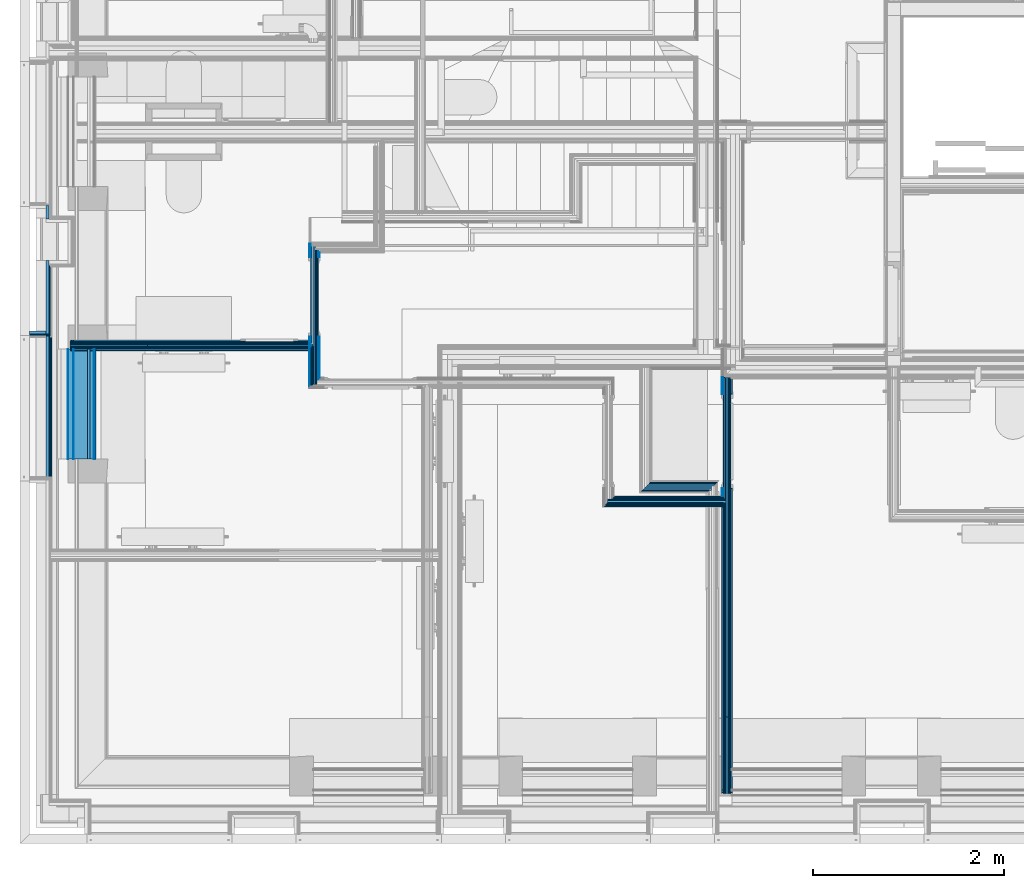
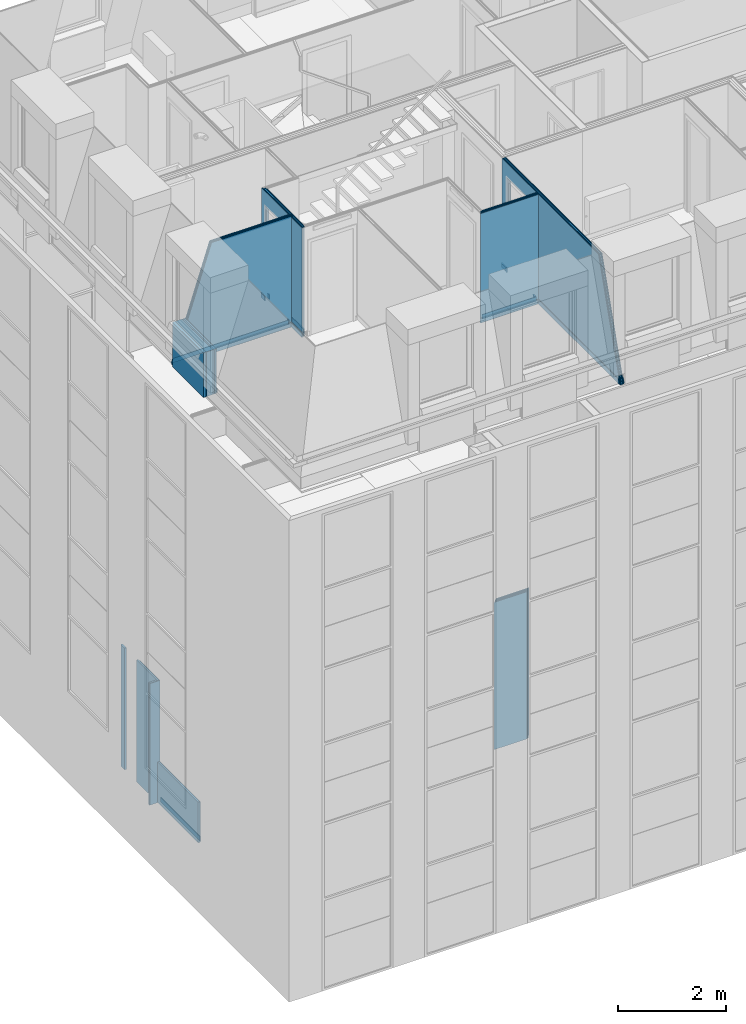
# One storey, part 16 of 169: 53 building element parts, 2 openings, 10 elements without a shape of their own.
"""IFC2X3 building model written with IfcOpenShell, lengths in metres."""

from ifc_helpers import new_model, entity, si_unit, converted_unit, derived_unit, money_unit, direction, frame, frame_2d, origin_with_axes, place, context, subcontext, project, spatial, polyline, rectangle, outline, extrude, clip, halfspace, material, type_object, element, aggregate, save


model = new_model("IFC2X3")

# Units and contexts
model_context = context("Model", 3, precision=1e-05, world=origin_with_axes(), true_north=direction((0.0, 1.0)))
body_context = subcontext(model_context, "Body", "Model", "MODEL_VIEW", scale=1.0)
ifc_project = project(units=[si_unit("LENGTHUNIT", "METRE"), si_unit("AREAUNIT", "SQUARE_METRE"), si_unit("VOLUMEUNIT", "CUBIC_METRE"), si_unit("ABSORBEDDOSEUNIT", "GRAY"), si_unit("AMOUNTOFSUBSTANCEUNIT", "MOLE"), si_unit("DOSEEQUIVALENTUNIT", "SIEVERT"), si_unit("ELECTRICCAPACITANCEUNIT", "FARAD"), si_unit("ELECTRICCHARGEUNIT", "COULOMB"), si_unit("ELECTRICCONDUCTANCEUNIT", "SIEMENS"), si_unit("ELECTRICCURRENTUNIT", "AMPERE"), si_unit("ELECTRICRESISTANCEUNIT", "OHM"), si_unit("ELECTRICVOLTAGEUNIT", "VOLT"), si_unit("ENERGYUNIT", "JOULE"), si_unit("FORCEUNIT", "NEWTON"), si_unit("FREQUENCYUNIT", "HERTZ"), si_unit("ILLUMINANCEUNIT", "LUX"), si_unit("INDUCTANCEUNIT", "HENRY"), si_unit("LUMINOUSFLUXUNIT", "LUMEN"), si_unit("LUMINOUSINTENSITYUNIT", "CANDELA"), si_unit("MAGNETICFLUXDENSITYUNIT", "TESLA"), si_unit("MAGNETICFLUXUNIT", "WEBER"), si_unit("MASSUNIT", "GRAM"), converted_unit("PLANEANGLEUNIT", "degree", entity("IfcReal", 0.0174532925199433), si_unit("PLANEANGLEUNIT", "RADIAN"), dimensions=[0, 0, 0, 0, 0, 0, 0]), si_unit("POWERUNIT", "WATT"), si_unit("PRESSUREUNIT", "PASCAL"), si_unit("RADIOACTIVITYUNIT", "BECQUEREL"), si_unit("SOLIDANGLEUNIT", "STERADIAN"), si_unit("THERMODYNAMICTEMPERATUREUNIT", "KELVIN"), si_unit("TIMEUNIT", "SECOND"), derived_unit("ACCELERATIONUNIT", [(si_unit("LENGTHUNIT", "METRE"), 1), (si_unit("TIMEUNIT", "SECOND"), -2)]), derived_unit("ANGULARVELOCITYUNIT", [(converted_unit("PLANEANGLEUNIT", "degree", entity("IfcReal", 0.0174532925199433), si_unit("PLANEANGLEUNIT", "RADIAN"), dimensions=[0, 0, 0, 0, 0, 0, 0]), 1), (si_unit("TIMEUNIT", "SECOND"), -1)]), derived_unit("CURVATUREUNIT", [(converted_unit("PLANEANGLEUNIT", "degree", entity("IfcReal", 0.0174532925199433), si_unit("PLANEANGLEUNIT", "RADIAN"), dimensions=[0, 0, 0, 0, 0, 0, 0]), 1), (si_unit("LENGTHUNIT", "METRE"), -1)]), derived_unit("DYNAMICVISCOSITYUNIT", [(si_unit("PRESSUREUNIT", "PASCAL"), 1), (si_unit("TIMEUNIT", "SECOND"), 1)]), derived_unit("HEATFLUXDENSITYUNIT", [(si_unit("POWERUNIT", "WATT"), 1), (si_unit("LENGTHUNIT", "METRE"), -2)]), derived_unit("HEATINGVALUEUNIT", [(si_unit("ENERGYUNIT", "JOULE"), 1), (si_unit("MASSUNIT", "GRAM"), -1)]), derived_unit("INTEGERCOUNTRATEUNIT", [(si_unit("TIMEUNIT", "SECOND"), -1)]), derived_unit("IONCONCENTRATIONUNIT", [(si_unit("MASSUNIT", "GRAM"), 1), (si_unit("VOLUMEUNIT", "CUBIC_METRE"), -1)]), derived_unit("ISOTHERMALMOISTURECAPACITYUNIT", [(si_unit("VOLUMEUNIT", "CUBIC_METRE"), 1), (si_unit("MASSUNIT", "GRAM"), -1)]), derived_unit("KINEMATICVISCOSITYUNIT", [(si_unit("AREAUNIT", "SQUARE_METRE"), 1), (si_unit("TIMEUNIT", "SECOND"), -1)]), derived_unit("LINEARFORCEUNIT", [(si_unit("FORCEUNIT", "NEWTON"), 1), (si_unit("LENGTHUNIT", "METRE"), -1)]), derived_unit("LINEARMOMENTUNIT", [(si_unit("FORCEUNIT", "NEWTON"), 1), (si_unit("LENGTHUNIT", "METRE"), -1)]), derived_unit("LINEARSTIFFNESSUNIT", [(si_unit("FORCEUNIT", "NEWTON"), 1), (si_unit("LENGTHUNIT", "METRE"), -1)]), derived_unit("LINEARVELOCITYUNIT", [(si_unit("LENGTHUNIT", "METRE"), 1), (si_unit("TIMEUNIT", "SECOND"), -1)]), derived_unit("LUMINOUSINTENSITYDISTRIBUTIONUNIT", [(si_unit("LUMINOUSINTENSITYUNIT", "CANDELA"), 1), (si_unit("LUMINOUSFLUXUNIT", "LUMEN"), -1)]), derived_unit("MASSDENSITYUNIT", [(si_unit("MASSUNIT", "GRAM"), 1), (si_unit("VOLUMEUNIT", "CUBIC_METRE"), -1)]), derived_unit("MASSFLOWRATEUNIT", [(si_unit("MASSUNIT", "GRAM"), 1), (si_unit("TIMEUNIT", "SECOND"), -1)]), derived_unit("MASSPERLENGTHUNIT", [(si_unit("MASSUNIT", "GRAM"), 1), (si_unit("LENGTHUNIT", "METRE"), -1)]), derived_unit("MODULUSOFELASTICITYUNIT", [(si_unit("FORCEUNIT", "NEWTON"), 1), (si_unit("AREAUNIT", "SQUARE_METRE"), -1)]), derived_unit("MODULUSOFLINEARSUBGRADEREACTIONUNIT", [(si_unit("FORCEUNIT", "NEWTON"), 1), (si_unit("LENGTHUNIT", "METRE"), -2)]), derived_unit("MODULUSOFROTATIONALSUBGRADEREACTIONUNIT", [(si_unit("FORCEUNIT", "NEWTON"), 1), (si_unit("LENGTHUNIT", "METRE"), 1)]), derived_unit("MODULUSOFSUBGRADEREACTIONUNIT", [(si_unit("FORCEUNIT", "NEWTON"), 1), (si_unit("VOLUMEUNIT", "CUBIC_METRE"), -1)]), derived_unit("MOISTUREDIFFUSIVITYUNIT", [(si_unit("VOLUMEUNIT", "CUBIC_METRE"), 1), (si_unit("TIMEUNIT", "SECOND"), -1)]), derived_unit("MOLECULARWEIGHTUNIT", [(si_unit("MASSUNIT", "GRAM"), 1), (si_unit("AMOUNTOFSUBSTANCEUNIT", "MOLE"), -1)]), derived_unit("PLANARFORCEUNIT", [(si_unit("FORCEUNIT", "NEWTON"), 1), (si_unit("LENGTHUNIT", "METRE"), -2)]), derived_unit("ROTATIONALFREQUENCYUNIT", [(si_unit("TIMEUNIT", "SECOND"), -1)]), derived_unit("ROTATIONALMASSUNIT", [(si_unit("MASSUNIT", "GRAM"), 1), (si_unit("LENGTHUNIT", "METRE"), 2)]), derived_unit("ROTATIONALSTIFFNESSUNIT", [(si_unit("FORCEUNIT", "NEWTON"), 1), (si_unit("LENGTHUNIT", "METRE"), 1), (converted_unit("PLANEANGLEUNIT", "degree", entity("IfcReal", 0.0174532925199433), si_unit("PLANEANGLEUNIT", "RADIAN"), dimensions=[0, 0, 0, 0, 0, 0, 0]), -1)]), derived_unit("SECTIONAREAINTEGRALUNIT", [(si_unit("LENGTHUNIT", "METRE"), 5)]), derived_unit("SECTIONMODULUSUNIT", [(si_unit("LENGTHUNIT", "METRE"), 3)]), derived_unit("SHEARMODULUSUNIT", [(si_unit("FORCEUNIT", "NEWTON"), 1), (si_unit("AREAUNIT", "SQUARE_METRE"), -1)]), derived_unit("SOUNDPOWERUNIT", [(si_unit("ENERGYUNIT", "JOULE"), 1), (si_unit("TIMEUNIT", "SECOND"), -1)]), derived_unit("SPECIFICHEATCAPACITYUNIT", [(si_unit("FORCEUNIT", "NEWTON"), 1), (si_unit("MASSUNIT", "GRAM"), -1), (si_unit("THERMODYNAMICTEMPERATUREUNIT", "KELVIN"), -1)]), derived_unit("TEMPERATUREGRADIENTUNIT", [(si_unit("THERMODYNAMICTEMPERATUREUNIT", "KELVIN"), 1), (si_unit("LENGTHUNIT", "METRE"), -1)]), derived_unit("THERMALADMITTANCEUNIT", [(si_unit("POWERUNIT", "WATT"), 1), (si_unit("AREAUNIT", "SQUARE_METRE"), -1), (si_unit("THERMODYNAMICTEMPERATUREUNIT", "KELVIN"), -1)]), derived_unit("THERMALCONDUCTANCEUNIT", [(si_unit("POWERUNIT", "WATT"), 1), (si_unit("LENGTHUNIT", "METRE"), -1), (si_unit("THERMODYNAMICTEMPERATUREUNIT", "KELVIN"), -1)]), derived_unit("THERMALEXPANSIONCOEFFICIENTUNIT", [(si_unit("THERMODYNAMICTEMPERATUREUNIT", "KELVIN"), -1)]), derived_unit("THERMALRESISTANCEUNIT", [(si_unit("AREAUNIT", "SQUARE_METRE"), 1), (si_unit("POWERUNIT", "WATT"), -1)]), derived_unit("THERMALTRANSMITTANCEUNIT", [(si_unit("POWERUNIT", "WATT"), 1), (si_unit("AREAUNIT", "SQUARE_METRE"), -1), (si_unit("THERMODYNAMICTEMPERATUREUNIT", "KELVIN"), -1)]), derived_unit("TORQUEUNIT", [(si_unit("FORCEUNIT", "NEWTON"), 1), (si_unit("LENGTHUNIT", "METRE"), 1)]), derived_unit("VAPORPERMEABILITYUNIT", [(si_unit("MASSUNIT", "GRAM"), 1), (si_unit("TIMEUNIT", "SECOND"), -1)]), derived_unit("VOLUMETRICFLOWRATEUNIT", [(si_unit("VOLUMEUNIT", "CUBIC_METRE"), 1), (si_unit("TIMEUNIT", "SECOND"), -1)]), derived_unit("WARPINGCONSTANTUNIT", [(si_unit("LENGTHUNIT", "METRE"), 6)]), derived_unit("WARPINGMOMENTUNIT", [(si_unit("FORCEUNIT", "NEWTON"), 1), (si_unit("LENGTHUNIT", "METRE"), 2)]), money_unit("GBP")], contexts=[model_context])

# Site, building, storey
site_placement = place(None, origin_with_axes())
site = spatial("IfcSite", under=ifc_project, at=site_placement, Name="Site", CompositionType="ELEMENT")
building_placement = place(site_placement, origin_with_axes())
building = spatial("IfcBuilding", under=site, at=building_placement, Name="Building01", CompositionType="ELEMENT")
storey_placement = place(building_placement, frame((0.0, 0.0, 5.15), z_axis=(0.0, 0.0, 1.0), x_axis=(1.0, 0.0, 0.0)))
storey = spatial("IfcBuildingStorey", under=building, at=storey_placement, Name="1F", CompositionType="ELEMENT", Elevation=5.15)

# Wall, building element parts
wall_type_1 = type_object("IfcWallType", Name="SHE_A-Walls_Type05a_Partition_95mm_tall", PredefinedType="NOTDEFINED")
wall_1_placement = place(storey_placement, frame((7.235, 3.72, 0.0), z_axis=(0.0, 0.0, 1.0), x_axis=(-1.0, 0.0, 0.0)))
wall_1 = element("IfcWall", 1, at=wall_1_placement, inside=storey, type_object=wall_type_1, Name="5A", ObjectType="SHE_A-Walls_Type05a_Partition_95mm_tall")
ifc_material_1 = material(Name="A_BSUK_WallInternal_Finishes_Plasterboard")
placement_1 = place(wall_1_placement, origin_with_axes())
building_element_part_1 = element("IfcBuildingElementPart", 2, at=placement_1, material=ifc_material_1, Name="2", context=body_context, shape_type="SweptSolid", body=[
    extrude(outline(polyline([(0.652, -0.048), (-0.048, -0.048), (-0.06, -0.06), (0.64, -0.06), (0.652, -0.048)])), origin_with_axes(), (0.0, 0.0, 1.0), 3.32),
])
ifc_material_2 = material(Name="Air Cavity")
building_element_part_2 = element("IfcBuildingElementPart", 3, at=placement_1, material=ifc_material_2, Name="3", context=body_context, shape_type="SweptSolid", body=[
    extrude(outline(polyline([(0.675, -0.025), (-0.025, -0.025), (-0.048, -0.048), (0.652, -0.048), (0.675, -0.025)])), origin_with_axes(), (0.0, 0.0, 1.0), 3.32),
])
ifc_material_3 = material(Name="A_BSUK_Insulation")
building_element_part_3 = element("IfcBuildingElementPart", 4, at=placement_1, material=ifc_material_3, Name="4", context=body_context, shape_type="SweptSolid", body=[
    extrude(outline(polyline([(0.7, 0.0), (0.0, 0.0), (0.0, -0.025), (0.675, -0.025), (0.7, 0.0)])), origin_with_axes(), (0.0, 0.0, 1.0), 3.32),
])
building_element_part_4 = element("IfcBuildingElementPart", 5, at=placement_1, material=ifc_material_2, Name="5", context=body_context, shape_type="SweptSolid", body=[
    extrude(outline(polyline([(0.723, 0.023), (0.0, 0.023), (0.0, 0.0), (0.7, 0.0), (0.723, 0.023)])), origin_with_axes(), (0.0, 0.0, 1.0), 3.32),
])
building_element_part_5 = element("IfcBuildingElementPart", 6, at=placement_1, material=ifc_material_1, Name="6", context=body_context, shape_type="SweptSolid", body=[
    extrude(outline(polyline([(0.735, 0.035), (0.035, 0.035), (0.023, 0.023), (0.723, 0.023), (0.735, 0.035)])), origin_with_axes(), (0.0, 0.0, 1.0), 3.32),
])
aggregate(wall_1, [building_element_part_1, building_element_part_2, building_element_part_3, building_element_part_4, building_element_part_5])

# Wall, building element part
wall_type_2 = type_object("IfcWallType", Name="SHE_A-Walls_Type06d_ExternalWallInsulation_48mm", PredefinedType="NOTDEFINED")
wall_2_placement = place(storey_placement, frame((0.27, 6.68018, 0.0), z_axis=(0.0, 0.0, 1.0), x_axis=(0.0, -1.0, 0.0)))
wall_2 = element("IfcWall", 7, at=wall_2_placement, inside=storey, type_object=wall_type_2, Name="6D", ObjectType="SHE_A-Walls_Type06d_ExternalWallInsulation_48mm")
building_element_part_6_placement = place(wall_2_placement, origin_with_axes())
building_element_part_6 = element("IfcBuildingElementPart", 8, at=building_element_part_6_placement, material=ifc_material_3, Name="1", context=body_context, shape_type="SweptSolid", body=[
    extrude(rectangle(XDim=0.14418, YDim=0.036, at=frame_2d((0.07209, 0.018), x_axis=(-1.0, 0.0))), origin_with_axes(), (0.0, 0.0, 1.0), 2.74),
])
aggregate(wall_2, [building_element_part_6])

# Wall, building element parts
wall_3_placement = place(storey_placement, frame((0.27, 6.1, 0.0), z_axis=(0.0, 0.0, 1.0), x_axis=(0.0, -1.0, 0.0)))
wall_3 = element("IfcWall", 9, at=wall_3_placement, inside=storey, type_object=wall_type_2, Name="6D", ObjectType="SHE_A-Walls_Type06d_ExternalWallInsulation_48mm")
placement_2 = place(wall_3_placement, origin_with_axes())
building_element_part_7 = element("IfcBuildingElementPart", 10, at=placement_2, material=ifc_material_3, Name="1", context=body_context, shape_type="SweptSolid", body=[
    extrude(rectangle(XDim=0.773, YDim=0.036, at=frame_2d((0.3865, 0.018), x_axis=(-1.0, 0.0))), origin_with_axes(), (0.0, 0.0, 1.0), 2.74),
])
building_element_part_8 = element("IfcBuildingElementPart", 11, at=placement_2, material=ifc_material_1, Name="2", context=body_context, shape_type="SweptSolid", body=[
    extrude(outline(polyline([(0.785, 0.048), (0.048, 0.048), (0.048, 0.035), (0.772, 0.035), (0.785, 0.048)])), origin_with_axes(), (0.0, 0.0, 1.0), 2.74),
])
aggregate(wall_3, [building_element_part_7, building_element_part_8])

wall_4_placement = place(storey_placement, frame((0.27, 5.363, 0.0), z_axis=(0.0, 0.0, 1.0), x_axis=(-1.0, 0.0, 0.0)))
wall_4 = element("IfcWall", 12, at=wall_4_placement, inside=storey, type_object=wall_type_2, Name="6D", ObjectType="SHE_A-Walls_Type06d_ExternalWallInsulation_48mm")
placement_3 = place(wall_4_placement, origin_with_axes())
building_element_part_9 = element("IfcBuildingElementPart", 13, at=placement_3, material=ifc_material_3, Name="1", context=body_context, shape_type="SweptSolid", body=[
    extrude(rectangle(XDim=0.036, YDim=0.17, at=frame_2d((0.085, 0.018), x_axis=(0.0, -1.0))), origin_with_axes(), (0.0, 0.0, 1.0), 2.74),
])
building_element_part_10 = element("IfcBuildingElementPart", 14, at=placement_3, material=ifc_material_1, Name="2", context=body_context, shape_type="SweptSolid", body=[
    extrude(outline(polyline([(-0.048, 0.048), (-0.035, 0.035), (0.17, 0.035), (0.17, 0.048), (-0.048, 0.048)])), origin_with_axes(), (0.0, 0.0, 1.0), 2.74),
])
aggregate(wall_4, [building_element_part_9, building_element_part_10])

wall_5_placement = place(storey_placement, frame((0.306, 5.315, 0.0), z_axis=(0.0, 0.0, 1.0), x_axis=(0.0, -1.0, 0.0)))
wall_5 = element("IfcWall", 15, at=wall_5_placement, inside=storey, type_object=wall_type_2, Name="6D", ObjectType="SHE_A-Walls_Type06d_ExternalWallInsulation_48mm")
placement_4 = place(wall_5_placement, origin_with_axes())
building_element_part_11 = element("IfcBuildingElementPart", 16, at=placement_4, material=ifc_material_3, Name="1", context=body_context, shape_type="SweptSolid", body=[
    extrude(rectangle(XDim=1.49282, YDim=0.036, at=frame_2d((0.74641, -0.018), x_axis=(-1.0, 0.0))), origin_with_axes(), (0.0, 0.0, 1.0), 0.915),
])
building_element_part_12 = element("IfcBuildingElementPart", 17, at=placement_4, material=ifc_material_1, Name="2", context=body_context, shape_type="SweptSolid", body=[
    extrude(rectangle(XDim=1.49282, YDim=0.013, at=frame_2d((0.74641, 0.0055), x_axis=(-1.0, 0.0))), origin_with_axes(), (0.0, 0.0, 1.0), 0.915),
])
ifc_material_4 = material(Name="A_BSUK_Walls_Timber")
building_element_part_13 = element("IfcBuildingElementPart", 18, at=placement_4, material=ifc_material_4, Name="3", context=body_context, shape_type="SweptSolid", body=[
    extrude(rectangle(XDim=1.46282, YDim=0.015, at=frame_2d((0.74641, 0.0195), x_axis=(-1.0, 0.0))), frame((0.0, 0.0, 0.015), z_axis=(0.0, 0.0, 1.0), x_axis=(1.0, 0.0, 0.0)), (0.0, 0.0, 1.0), 0.1),
])
aggregate(wall_5, [building_element_part_11, building_element_part_12, building_element_part_13])

# Wall, opening, building element parts
wall_type_3 = type_object("IfcWallType", Name="SHE_A-Walls_Type05b_Partition_80mm", PredefinedType="NOTDEFINED")
wall_6_placement = place(storey_placement, frame((3.066976, 6.252939, 9.83), z_axis=(0.0, 0.0, 1.0), x_axis=(0.0, -1.0, 0.0)))
wall_6 = element("IfcWall", 19, at=wall_6_placement, inside=storey, type_object=wall_type_3, Name="5B", ObjectType="SHE_A-Walls_Type05b_Partition_80mm")
opening_1_placement = place(wall_6_placement, frame((0.115964, 0.068, 0.0), z_axis=(0.0, 0.0, 1.0), x_axis=(1.0, 0.0, 0.0)))
element("IfcOpeningElement", 20, at=opening_1_placement, cuts=wall_6, Name="Opening", ObjectType="Opening", context=body_context, shape_type="SweptSolid", body=[
    extrude(rectangle(XDim=0.834, YDim=2.142, at=frame_2d((0.417, 1.071), x_axis=(-1.0, 0.0))), frame((0.0, 0.0, 0.0), z_axis=(0.0, -1.0, 0.0), x_axis=(1.0, 0.0, 0.0)), (0.0, 0.0, 1.0), 0.11),
])
placement_5 = place(wall_6_placement, origin_with_axes())
building_element_part_14 = element("IfcBuildingElementPart", 21, at=placement_5, material=ifc_material_4, Name="1", context=body_context, shape_type="SweptSolid", body=[
    extrude(rectangle(XDim=1.024964, YDim=0.015, at=frame_2d((0.485482, -0.0345), x_axis=(-1.0, 0.0))), frame((0.0, 0.0, 0.015), z_axis=(0.0, 0.0, 1.0), x_axis=(1.0, 0.0, 0.0)), (0.0, 0.0, 1.0), 0.1),
])
building_element_part_15 = element("IfcBuildingElementPart", 22, at=placement_5, material=ifc_material_4, Name="2", context=body_context, shape_type="SweptSolid", body=[
    extrude(outline(polyline([(1.473, -0.027), (-0.027, -0.027), (-0.027, -0.042), (1.488, -0.042), (1.473, -0.027)])), frame((0.0, 0.0, 0.015), z_axis=(0.0, 0.0, 1.0), x_axis=(1.0, 0.0, 0.0)), (0.0, 0.0, 1.0), 0.1),
])
building_element_part_16 = element("IfcBuildingElementPart", 23, at=placement_5, material=ifc_material_1, Name="3", context=body_context, shape_type="SweptSolid", body=[
    extrude(rectangle(XDim=1.039964, YDim=0.015, at=frame_2d((0.492982, -0.0195), x_axis=(-1.0, 0.0))), origin_with_axes(), (0.0, 0.0, 1.0), 2.468),
])
building_element_part_17 = element("IfcBuildingElementPart", 24, at=placement_5, material=ifc_material_1, Name="4", context=body_context, shape_type="SweptSolid", body=[
    extrude(outline(polyline([(1.458, -0.012), (1.062964, -0.012), (1.062964, -0.027), (1.473, -0.027), (1.458, -0.012)])), origin_with_axes(), (0.0, 0.0, 1.0), 2.468),
])
building_element_part_18 = element("IfcBuildingElementPart", 25, at=placement_5, material=ifc_material_2, Name="5", context=body_context, shape_type="SweptSolid", body=[
    extrude(outline(polyline([(1.446, 0.0), (1.062964, 0.0), (1.062964, -0.012), (1.458, -0.012), (1.446, 0.0)])), origin_with_axes(), (0.0, 0.0, 1.0), 2.468),
])
building_element_part_19 = element("IfcBuildingElementPart", 26, at=placement_5, material=ifc_material_3, Name="6", context=body_context, shape_type="SweptSolid", body=[
    extrude(rectangle(XDim=1.446, YDim=0.025, at=frame_2d((0.723, 0.0125), x_axis=(-1.0, 0.0))), origin_with_axes(), (0.0, 0.0, 1.0), 2.468),
])
building_element_part_20 = element("IfcBuildingElementPart", 27, at=placement_5, material=ifc_material_2, Name="7", context=body_context, shape_type="SweptSolid", body=[
    extrude(rectangle(XDim=1.446, YDim=0.013, at=frame_2d((0.723, 0.0315), x_axis=(-1.0, 0.0))), origin_with_axes(), (0.0, 0.0, 1.0), 2.468),
])
building_element_part_21 = element("IfcBuildingElementPart", 28, at=placement_5, material=ifc_material_1, Name="8", context=body_context, shape_type="SweptSolid", body=[
    extrude(outline(polyline([(1.393, 0.053), (0.038, 0.053), (0.038, 0.038), (1.408, 0.038), (1.393, 0.053)])), origin_with_axes(), (0.0, 0.0, 1.0), 2.468),
])
building_element_part_22 = element("IfcBuildingElementPart", 29, at=placement_5, material=ifc_material_4, Name="9", context=body_context, shape_type="SweptSolid", body=[
    extrude(outline(polyline([(1.378, 0.068), (0.068, 0.068), (0.053, 0.053), (1.393, 0.053), (1.378, 0.068)])), frame((0.0, 0.0, 0.015), z_axis=(0.0, 0.0, 1.0), x_axis=(1.0, 0.0, 0.0)), (0.0, 0.0, 1.0), 0.1),
])
aggregate(wall_6, [building_element_part_14, building_element_part_15, building_element_part_16, building_element_part_17, building_element_part_18, building_element_part_19, building_element_part_20, building_element_part_21, building_element_part_22])

# Wall, building element parts
wall_type_4 = type_object("IfcWallType", Name="SHE_A-Walls_Type06e_ExternalWallPenthouse_280mm", PredefinedType="NOTDEFINED")
wall_7_placement = place(storey_placement, frame((0.564939, 5.174915, 9.83), z_axis=(0.0, 0.0, 1.0), x_axis=(0.0, 1.0, 0.0)))
wall_7 = element("IfcWall", 30, at=wall_7_placement, inside=storey, type_object=wall_type_4, Name="6E", ObjectType="SHE_A-Walls_Type06e_ExternalWallPenthouse_280mm")
placement_6 = place(wall_7_placement, origin_with_axes())
building_element_part_23 = element("IfcBuildingElementPart", 31, at=placement_6, material=ifc_material_4, Name="1", context=body_context, shape_type="SweptSolid", body=[
    extrude(rectangle(XDim=1.149951, YDim=0.015, at=frame_2d((-0.574976, -0.2225), x_axis=(1.0, 0.0))), frame((0.0, 0.0, 0.015), z_axis=(0.0, 0.0, 1.0), x_axis=(1.0, 0.0, 0.0)), (0.0, 0.0, 1.0), 0.1),
])
building_element_part_24 = element("IfcBuildingElementPart", 32, at=placement_6, material=ifc_material_1, Name="2", context=body_context, shape_type="SweptSolid", body=[
    extrude(rectangle(XDim=1.149951, YDim=0.01, at=frame_2d((-0.574976, -0.21), x_axis=(1.0, 0.0))), origin_with_axes(), (0.0, 0.0, 1.0), 1.0),
])
building_element_part_25 = element("IfcBuildingElementPart", 33, at=placement_6, material=ifc_material_3, Name="3", context=body_context, shape_type="SweptSolid", body=[
    extrude(rectangle(XDim=1.149951, YDim=0.04, at=frame_2d((-0.574976, -0.185), x_axis=(1.0, 0.0))), origin_with_axes(), (0.0, 0.0, 1.0), 1.0),
])
building_element_part_26 = element("IfcBuildingElementPart", 34, at=placement_6, material=ifc_material_2, Name="4", context=body_context, shape_type="SweptSolid", body=[
    extrude(rectangle(XDim=1.149951, YDim=0.025, at=frame_2d((-0.574976, -0.1525), x_axis=(1.0, 0.0))), origin_with_axes(), (0.0, 0.0, 1.0), 1.0),
])
building_element_part_27 = element("IfcBuildingElementPart", 35, at=placement_6, material=ifc_material_3, Name="5", context=body_context, shape_type="SweptSolid", body=[
    extrude(rectangle(XDim=1.149951, YDim=0.14, at=frame_2d((-0.574976, -0.07), x_axis=(1.0, 0.0))), origin_with_axes(), (0.0, 0.0, 1.0), 1.0),
])
building_element_part_28 = element("IfcBuildingElementPart", 36, at=placement_6, material=ifc_material_4, Name="6", context=body_context, shape_type="SweptSolid", body=[
    extrude(rectangle(XDim=1.149951, YDim=0.01, at=frame_2d((-0.574976, 0.005), x_axis=(1.0, 0.0))), origin_with_axes(), (0.0, 0.0, 1.0), 1.0),
])
building_element_part_29 = element("IfcBuildingElementPart", 37, at=placement_6, material=ifc_material_2, Name="7", context=body_context, shape_type="SweptSolid", body=[
    extrude(rectangle(XDim=1.149951, YDim=0.05, at=frame_2d((-0.574976, 0.035), x_axis=(1.0, 0.0))), origin_with_axes(), (0.0, 0.0, 1.0), 1.0),
])
ifc_material_5 = material(Name="A_BSUK_WallInternal_Finishes_Metal")
building_element_part_30 = element("IfcBuildingElementPart", 38, at=placement_6, material=ifc_material_5, Name="8", context=body_context, shape_type="SweptSolid", body=[
    extrude(rectangle(XDim=1.149951, YDim=0.005, at=frame_2d((-0.574976, 0.0625), x_axis=(1.0, 0.0))), origin_with_axes(), (0.0, 0.0, 1.0), 1.0),
])
aggregate(wall_7, [building_element_part_23, building_element_part_24, building_element_part_25, building_element_part_26, building_element_part_27, building_element_part_28, building_element_part_29, building_element_part_30])

# Wall, opening, building element parts
wall_8_placement = place(storey_placement, frame((7.387, 4.88, 9.83), z_axis=(0.0, 0.0, 1.0), x_axis=(0.0, -1.0, 0.0)))
wall_8 = element("IfcWall", 39, at=wall_8_placement, inside=storey, type_object=wall_type_3, Name="5B", ObjectType="SHE_A-Walls_Type05b_Partition_80mm")
opening_2_placement = place(wall_8_placement, frame((0.178061, -0.042, 0.0), z_axis=(0.0, 0.0, 1.0), x_axis=(1.0, 0.0, 0.0)))
element("IfcOpeningElement", 40, at=opening_2_placement, cuts=wall_8, Name="Opening", ObjectType="Opening", context=body_context, shape_type="SweptSolid", body=[
    extrude(rectangle(XDim=0.984, YDim=2.142, at=frame_2d((-0.492, 1.071), x_axis=(-1.0, 0.0))), frame((0.0, 0.0, 0.0), z_axis=(0.0, 1.0, 0.0), x_axis=(-1.0, 0.0, 0.0)), (0.0, 0.0, 1.0), 0.11),
])
placement_7 = place(wall_8_placement, origin_with_axes())
building_element_part_31 = element("IfcBuildingElementPart", 41, at=placement_7, material=ifc_material_4, Name="1", context=body_context, shape_type="SweptSolid", body=[
    extrude(rectangle(XDim=1.245061, YDim=0.015, at=frame_2d((0.62253, -0.0345), x_axis=(-1.0, 0.0))), frame((0.0, 0.0, 0.015), z_axis=(0.0, 0.0, 1.0), x_axis=(1.0, 0.0, 0.0)), (0.0, 0.0, 1.0), 0.1),
])
building_element_part_32 = element("IfcBuildingElementPart", 42, at=placement_7, material=ifc_material_4, Name="2", context=body_context, shape_type="Clipping", body=[
    clip(extrude(rectangle(XDim=4.35127, YDim=0.015, at=frame_2d((2.175635, -0.0345), x_axis=(-1.0, 0.0))), frame((0.0, 0.0, 0.015), z_axis=(0.0, 0.0, 1.0), x_axis=(1.0, 0.0, 0.0)), (0.0, 0.0, 1.0), 0.1), halfspace(frame((3.940169, 0.0, 1.280238), z_axis=(-0.95105652, 0.0, -0.30901699), x_axis=(0.0, -1.0, 0.0)), True)),
])
building_element_part_33 = element("IfcBuildingElementPart", 43, at=placement_7, material=ifc_material_1, Name="3", context=body_context, shape_type="SweptSolid", body=[
    extrude(rectangle(XDim=1.275061, YDim=0.015, at=frame_2d((0.63753, -0.0195), x_axis=(-1.0, 0.0))), origin_with_axes(), (0.0, 0.0, 1.0), 2.468),
])
building_element_part_34 = element("IfcBuildingElementPart", 44, at=placement_7, material=ifc_material_1, Name="4", context=body_context, shape_type="Clipping", body=[
    clip(extrude(rectangle(XDim=4.356143, YDim=0.015, at=frame_2d((2.178072, -0.0195), x_axis=(-1.0, 0.0))), origin_with_axes(), (0.0, 0.0, 1.0), 2.468), halfspace(frame((3.940169, 0.0, 1.280238), z_axis=(-0.95105652, 0.0, -0.30901699), x_axis=(0.0, -1.0, 0.0)), True)),
])
building_element_part_35 = element("IfcBuildingElementPart", 45, at=placement_7, material=ifc_material_2, Name="5", context=body_context, shape_type="Clipping", body=[
    clip(extrude(rectangle(XDim=4.356143, YDim=0.012, at=frame_2d((2.178072, -0.006), x_axis=(-1.0, 0.0))), origin_with_axes(), (0.0, 0.0, 1.0), 2.468), halfspace(frame((3.940169, 0.0, 1.280238), z_axis=(-0.95105652, 0.0, -0.30901699), x_axis=(0.0, -1.0, 0.0)), True)),
])
building_element_part_36 = element("IfcBuildingElementPart", 46, at=placement_7, material=ifc_material_3, Name="6", context=body_context, shape_type="Clipping", body=[
    clip(extrude(rectangle(XDim=4.356143, YDim=0.025, at=frame_2d((2.178072, 0.0125), x_axis=(-1.0, 0.0))), origin_with_axes(), (0.0, 0.0, 1.0), 2.468), halfspace(frame((3.940169, 0.0, 1.280238), z_axis=(-0.95105652, 0.0, -0.30901699), x_axis=(0.0, -1.0, 0.0)), True)),
])
building_element_part_37 = element("IfcBuildingElementPart", 47, at=placement_7, material=ifc_material_2, Name="7", context=body_context, shape_type="Clipping", body=[
    clip(extrude(rectangle(XDim=4.356143, YDim=0.013, at=frame_2d((2.178072, 0.0315), x_axis=(-1.0, 0.0))), origin_with_axes(), (0.0, 0.0, 1.0), 2.468), halfspace(frame((3.940169, 0.0, 1.280238), z_axis=(-0.95105652, 0.0, -0.30901699), x_axis=(0.0, -1.0, 0.0)), True)),
])
building_element_part_38 = element("IfcBuildingElementPart", 48, at=placement_7, material=ifc_material_1, Name="8", context=body_context, shape_type="Clipping", body=[
    clip(extrude(rectangle(XDim=4.356143, YDim=0.015, at=frame_2d((2.178072, 0.0455), x_axis=(-1.0, 0.0))), origin_with_axes(), (0.0, 0.0, 1.0), 2.468), halfspace(frame((3.940169, 0.0, 1.280238), z_axis=(-0.95105652, 0.0, -0.30901699), x_axis=(0.0, -1.0, 0.0)), True)),
])
building_element_part_39 = element("IfcBuildingElementPart", 49, at=placement_7, material=ifc_material_4, Name="9", context=body_context, shape_type="Clipping", body=[
    clip(extrude(rectangle(XDim=4.33627, YDim=0.015, at=frame_2d((2.183135, 0.0605), x_axis=(-1.0, 0.0))), frame((0.0, 0.0, 0.015), z_axis=(0.0, 0.0, 1.0), x_axis=(1.0, 0.0, 0.0)), (0.0, 0.0, 1.0), 0.1), halfspace(frame((3.940169, 0.0, 1.280238), z_axis=(-0.95105652, 0.0, -0.30901699), x_axis=(0.0, -1.0, 0.0)), True)),
])
aggregate(wall_8, [building_element_part_31, building_element_part_32, building_element_part_33, building_element_part_34, building_element_part_35, building_element_part_36, building_element_part_37, building_element_part_38, building_element_part_39])

# Wall, building element parts
wall_9_placement = place(storey_placement, frame((3.066976, 5.227976, 9.83), z_axis=(0.0, 0.0, 1.0), x_axis=(-1.0, 0.0, 0.0)))
wall_9 = element("IfcWall", 50, at=wall_9_placement, inside=storey, type_object=wall_type_3, Name="5B", ObjectType="SHE_A-Walls_Type05b_Partition_80mm")
placement_8 = place(wall_9_placement, origin_with_axes())
building_element_part_40 = element("IfcBuildingElementPart", 51, at=placement_8, material=ifc_material_4, Name="1", context=body_context, shape_type="Clipping", body=[
    clip(extrude(rectangle(XDim=2.496245, YDim=0.015, at=frame_2d((1.290123, -0.0345), x_axis=(-1.0, 0.0))), frame((0.0, 0.0, 0.015), z_axis=(0.0, 0.0, 1.0), x_axis=(1.0, 0.0, 0.0)), (0.0, 0.0, 1.0), 0.1), halfspace(frame((2.300273, 0.0, 0.747404), z_axis=(-0.95105652, 0.0, -0.30901699), x_axis=(0.0, -1.0, 0.0)), True)),
])
building_element_part_41 = element("IfcBuildingElementPart", 52, at=placement_8, material=ifc_material_1, Name="2", context=body_context, shape_type="Clipping", body=[
    clip(extrude(rectangle(XDim=2.516119, YDim=0.015, at=frame_2d((1.285059, -0.0195), x_axis=(-1.0, 0.0))), origin_with_axes(), (0.0, 0.0, 1.0), 2.5), halfspace(frame((2.300273, 0.0, 0.747404), z_axis=(-0.95105652, 0.0, -0.30901699), x_axis=(0.0, -1.0, 0.0)), True)),
])
building_element_part_42 = element("IfcBuildingElementPart", 53, at=placement_8, material=ifc_material_2, Name="3", context=body_context, shape_type="Clipping", body=[
    clip(extrude(rectangle(XDim=2.516119, YDim=0.012, at=frame_2d((1.285059, -0.006), x_axis=(-1.0, 0.0))), origin_with_axes(), (0.0, 0.0, 1.0), 2.5), halfspace(frame((2.300273, 0.0, 0.747404), z_axis=(-0.95105652, 0.0, -0.30901699), x_axis=(0.0, -1.0, 0.0)), True)),
])
building_element_part_43 = element("IfcBuildingElementPart", 54, at=placement_8, material=ifc_material_3, Name="4", context=body_context, shape_type="Clipping", body=[
    clip(extrude(rectangle(XDim=2.543119, YDim=0.025, at=frame_2d((1.271559, 0.0125), x_axis=(-1.0, 0.0))), origin_with_axes(), (0.0, 0.0, 1.0), 2.5), halfspace(frame((2.300273, 0.0, 0.747404), z_axis=(-0.95105652, 0.0, -0.30901699), x_axis=(0.0, -1.0, 0.0)), True)),
])
building_element_part_44 = element("IfcBuildingElementPart", 55, at=placement_8, material=ifc_material_2, Name="5", context=body_context, shape_type="Clipping", body=[
    clip(extrude(rectangle(XDim=2.543119, YDim=0.013, at=frame_2d((1.271559, 0.0315), x_axis=(-1.0, 0.0))), origin_with_axes(), (0.0, 0.0, 1.0), 2.5), halfspace(frame((2.300273, 0.0, 0.747404), z_axis=(-0.95105652, 0.0, -0.30901699), x_axis=(0.0, -1.0, 0.0)), True)),
])
building_element_part_45 = element("IfcBuildingElementPart", 56, at=placement_8, material=ifc_material_1, Name="6", context=body_context, shape_type="Clipping", body=[
    clip(extrude(rectangle(XDim=2.516119, YDim=0.015, at=frame_2d((1.285059, 0.0455), x_axis=(-1.0, 0.0))), origin_with_axes(), (0.0, 0.0, 1.0), 2.5), halfspace(frame((2.300273, 0.0, 0.747404), z_axis=(-0.95105652, 0.0, -0.30901699), x_axis=(0.0, -1.0, 0.0)), True)),
])
building_element_part_46 = element("IfcBuildingElementPart", 57, at=placement_8, material=ifc_material_4, Name="7", context=body_context, shape_type="Clipping", body=[
    clip(extrude(rectangle(XDim=2.496245, YDim=0.015, at=frame_2d((1.290123, 0.0605), x_axis=(-1.0, 0.0))), frame((0.0, 0.0, 0.015), z_axis=(0.0, 0.0, 1.0), x_axis=(1.0, 0.0, 0.0)), (0.0, 0.0, 1.0), 0.1), halfspace(frame((2.300273, 0.0, 0.747404), z_axis=(-0.95105652, 0.0, -0.30901699), x_axis=(0.0, -1.0, 0.0)), True)),
])
aggregate(wall_9, [building_element_part_40, building_element_part_41, building_element_part_42, building_element_part_43, building_element_part_44, building_element_part_45, building_element_part_46])

wall_10_placement = place(storey_placement, frame((6.147098, 3.566939, 9.83), z_axis=(0.0, 0.0, 1.0), x_axis=(1.0, 0.0, 0.0)))
wall_10 = element("IfcWall", 58, at=wall_10_placement, inside=storey, type_object=wall_type_3, Name="5B", ObjectType="SHE_A-Walls_Type05b_Partition_80mm")
placement_9 = place(wall_10_placement, origin_with_axes())
building_element_part_47 = element("IfcBuildingElementPart", 59, at=placement_9, material=ifc_material_4, Name="1", context=body_context, shape_type="SweptSolid", body=[
    extrude(outline(polyline([(1.212902, -0.027), (-0.027, -0.027), (-0.042, -0.042), (1.212902, -0.042), (1.212902, -0.027)])), frame((0.0, 0.0, 0.015), z_axis=(0.0, 0.0, 1.0), x_axis=(1.0, 0.0, 0.0)), (0.0, 0.0, 1.0), 0.1),
])
building_element_part_48 = element("IfcBuildingElementPart", 60, at=placement_9, material=ifc_material_1, Name="2", context=body_context, shape_type="SweptSolid", body=[
    extrude(outline(polyline([(1.212902, -0.012), (-0.012, -0.012), (-0.027, -0.027), (1.212902, -0.027), (1.212902, -0.012)])), origin_with_axes(), (0.0, 0.0, 1.0), 2.468),
])
building_element_part_49 = element("IfcBuildingElementPart", 61, at=placement_9, material=ifc_material_2, Name="3", context=body_context, shape_type="SweptSolid", body=[
    extrude(outline(polyline([(1.212902, 0.0), (0.0, 0.0), (-0.012, -0.012), (1.212902, -0.012), (1.212902, 0.0)])), origin_with_axes(), (0.0, 0.0, 1.0), 2.468),
])
building_element_part_50 = element("IfcBuildingElementPart", 62, at=placement_9, material=ifc_material_3, Name="4", context=body_context, shape_type="SweptSolid", body=[
    extrude(rectangle(XDim=1.239902, YDim=0.025, at=frame_2d((0.619951, 0.0125), x_axis=(-1.0, 0.0))), origin_with_axes(), (0.0, 0.0, 1.0), 2.468),
])
building_element_part_51 = element("IfcBuildingElementPart", 63, at=placement_9, material=ifc_material_2, Name="5", context=body_context, shape_type="SweptSolid", body=[
    extrude(rectangle(XDim=1.239902, YDim=0.013, at=frame_2d((0.619951, 0.0315), x_axis=(-1.0, 0.0))), origin_with_axes(), (0.0, 0.0, 1.0), 2.468),
])
building_element_part_52 = element("IfcBuildingElementPart", 64, at=placement_9, material=ifc_material_1, Name="6", context=body_context, shape_type="SweptSolid", body=[
    extrude(outline(polyline([(1.212902, 0.053), (0.053, 0.053), (0.038, 0.038), (1.212902, 0.038), (1.212902, 0.053)])), origin_with_axes(), (0.0, 0.0, 1.0), 2.468),
])
building_element_part_53 = element("IfcBuildingElementPart", 65, at=placement_9, material=ifc_material_4, Name="7", context=body_context, shape_type="SweptSolid", body=[
    extrude(outline(polyline([(1.212902, 0.068), (0.068, 0.068), (0.053, 0.053), (1.212902, 0.053), (1.212902, 0.068)])), frame((0.0, 0.0, 0.015), z_axis=(0.0, 0.0, 1.0), x_axis=(1.0, 0.0, 0.0)), (0.0, 0.0, 1.0), 0.1),
])
aggregate(wall_10, [building_element_part_47, building_element_part_48, building_element_part_49, building_element_part_50, building_element_part_51, building_element_part_52, building_element_part_53])

save(model, "model.ifc")
